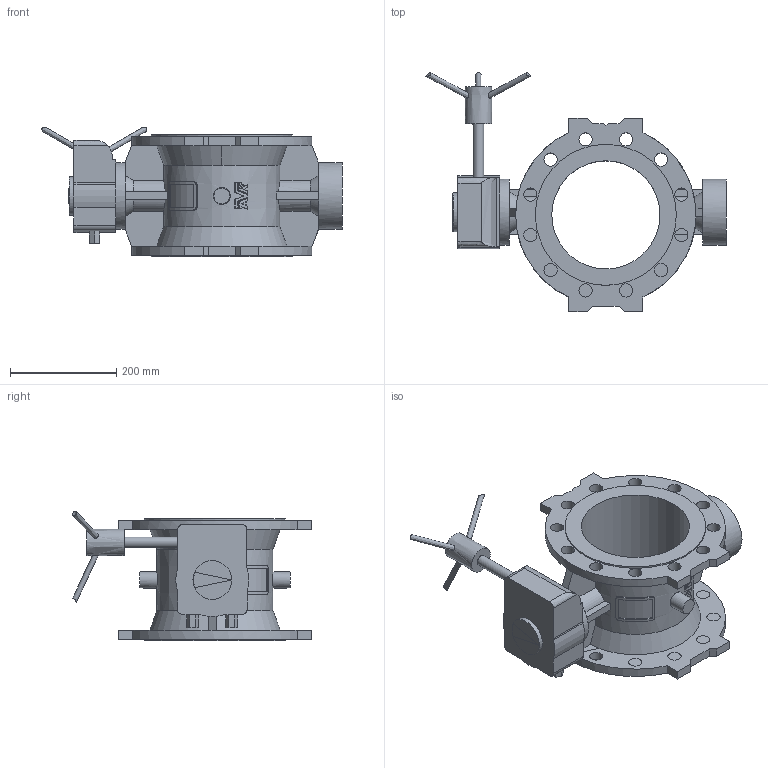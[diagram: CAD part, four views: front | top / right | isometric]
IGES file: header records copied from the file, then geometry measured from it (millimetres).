
Start section: SolidWorks IGES file using analytic representation for surfaces
Global section: file name: \\avksan2\techshare\PBM outline export from Enovia\O_756_1_DN200_1XX00_AA0_igs.igs; native system: SolidWorks 2012; preprocessor: SolidWorks 2012; author: pbm; date: 160304.122438; units: millimetre
Bounding box: 566.59 x 450.59 x 244.94 mm (x, y, z)
Surface area: 782346.3 mm2 (no closed solid volume)
Topology: 0 solids, 0 shells, 367 faces, 2830 edges, 2759 vertices
Faces by surface type: bspline 268, revolution 99
